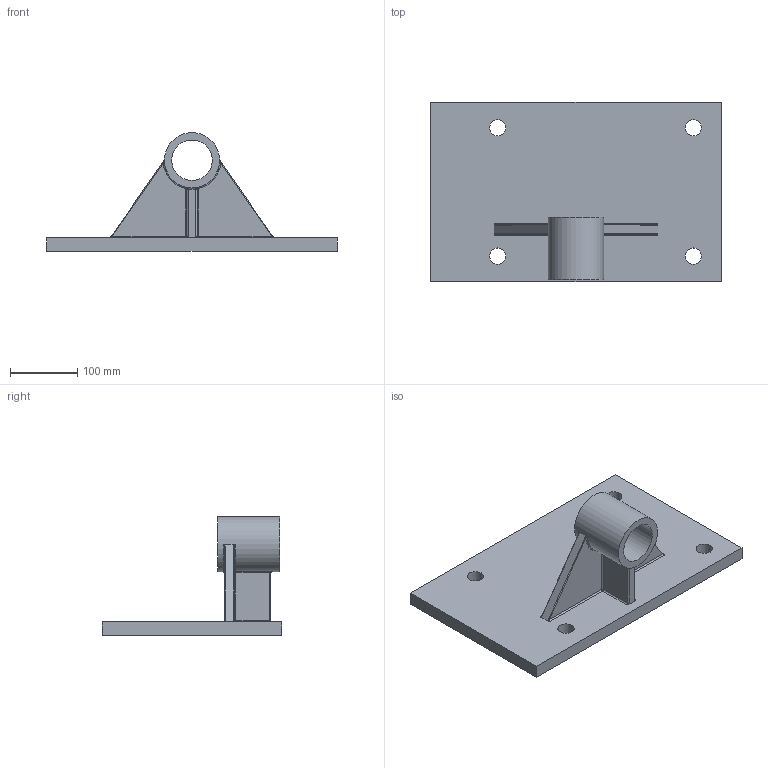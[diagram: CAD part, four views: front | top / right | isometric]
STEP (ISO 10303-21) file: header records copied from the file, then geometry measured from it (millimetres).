
FILE_DESCRIPTION((''),'2;1');
FILE_NAME('C:\Users\oem\Desktop\PAWEŁ\12 PRYWATNE\DualSystem\001 Modele\DKAB100_\DK_100_STEP\AT_100.stp','2011-12-13T13:16:23',('oem'),(''),'Autodesk Inventor 2009','Autodesk Inventor 2009','');
FILE_SCHEMA(('AUTOMOTIVE_DESIGN { 1 0 10303 214 1 1 1 1 }'));
Length unit declared in the file: millimetre
Products named in the file (1): AT_100
Bounding box: 430 x 266 x 176 mm (x, y, z)
Volume: 2778664.4 mm3; surface area: 340885.7 mm2
Topology: 1 solids, 1 shells, 59 faces, 142 edges, 82 vertices
Faces by surface type: cylinder 21, bspline 20, plane 16, torus 2
Full cylindrical faces by diameter (mm): 24 x4, 60 x1, 82 x1
Entity records: 2860 total; most frequent: CARTESIAN_POINT 1572, ORIENTED_EDGE 262, DIRECTION 243, EDGE_CURVE 131, AXIS2_PLACEMENT_3D 98, VERTEX_POINT 82, EDGE_LOOP 77, FACE_OUTER_BOUND 59
